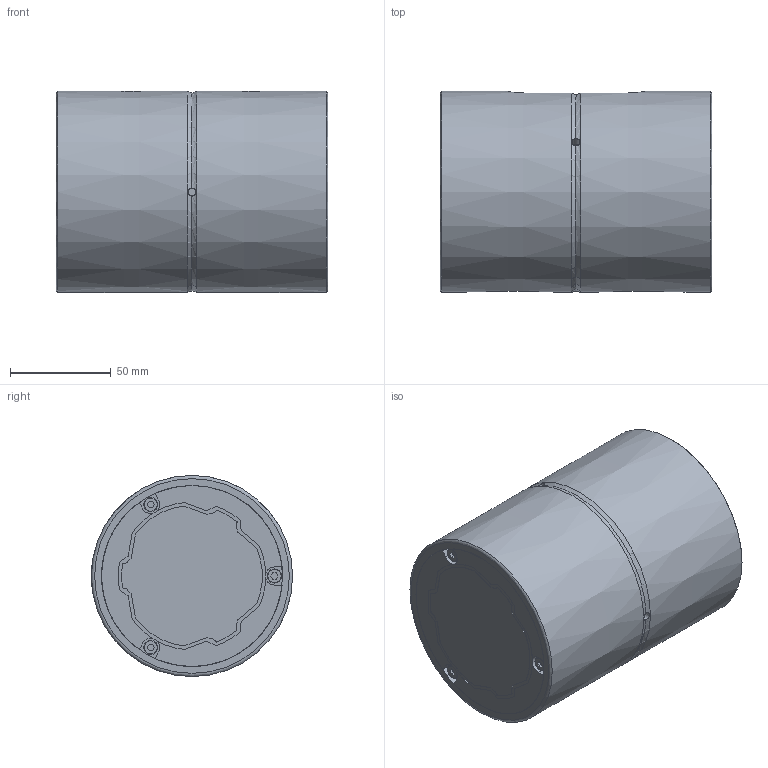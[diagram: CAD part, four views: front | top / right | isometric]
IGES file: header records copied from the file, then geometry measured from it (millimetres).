
Start section: Data from Parasolid IGES Translator 26.0.171, Copyright(c) 2006 Siemens PLM Software. All Rights Reserved.
Global section: file name: SLS70L1135(00).igs; native system: By Siemens PLM Incorporated; preprocessor: XPlus GENERIC/IGES 26.0.171; author: Noname; organization: Noname; date: 20240523.114721; units: millimetre
Bounding box: 135 x 100 x 100 mm (x, y, z)
Surface area: 121352.9 mm2 (no closed solid volume)
Topology: 0 solids, 0 shells, 253 faces, 1382 edges, 1350 vertices
Faces by surface type: extrusion 132, revolution 121
